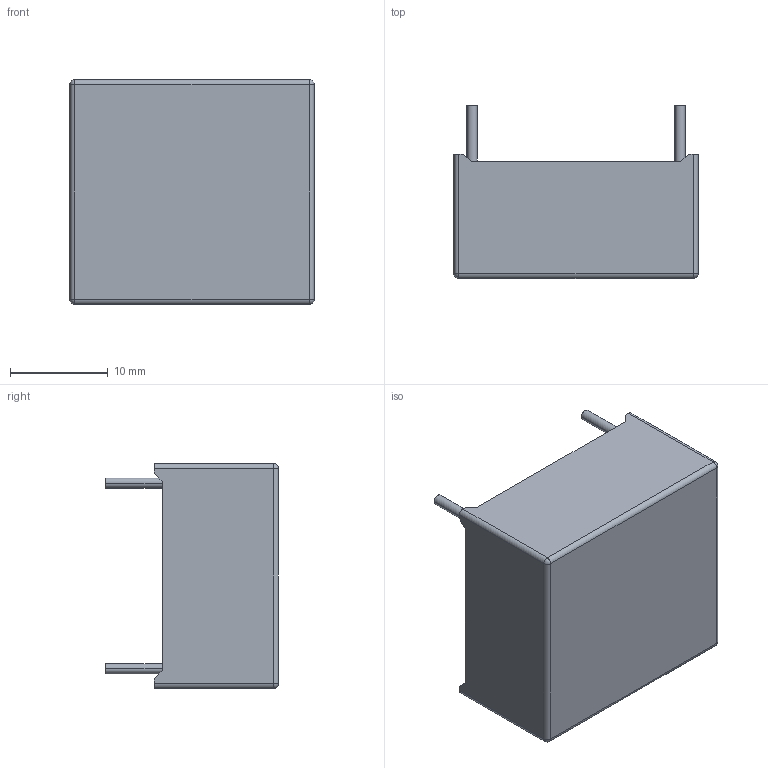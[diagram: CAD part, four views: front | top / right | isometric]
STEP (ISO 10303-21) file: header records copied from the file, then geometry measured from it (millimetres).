
FILE_DESCRIPTION((''),'2;1');
FILE_NAME('TFMOV20S511L-IT-5-001','2020-08-11T',('SET-01114'),(''),'PRO/ENGINEER BY PARAMETRIC TECHNOLOGY CORPORATION, 2012310','PRO/ENGINEER BY PARAMETRIC TECHNOLOGY CORPORATION, 2012310','');
FILE_SCHEMA(('CONFIG_CONTROL_DESIGN','SHAPE_APPEARANCE_LAYERS_GROUPS'));
Length unit declared in the file: millimetre
Products named in the file (1): TFMOV20S511L-IT-5-001
Bounding box: 25 x 17.7 x 23 mm (x, y, z)
Volume: 2090.4 mm3; surface area: 4171.3 mm2
Topology: 1 solids, 2 shells, 105 faces, 274 edges, 168 vertices
Faces by surface type: plane 59, cylinder 30, sphere 16
Entity records: 3981 total; most frequent: CARTESIAN_POINT 590, DIRECTION 544, ORIENTED_EDGE 516, PRESENTATION_STYLE_ASSIGNMENT 259, STYLED_ITEM 259, CURVE_STYLE 258, EDGE_CURVE 258, AXIS2_PLACEMENT_3D 185
